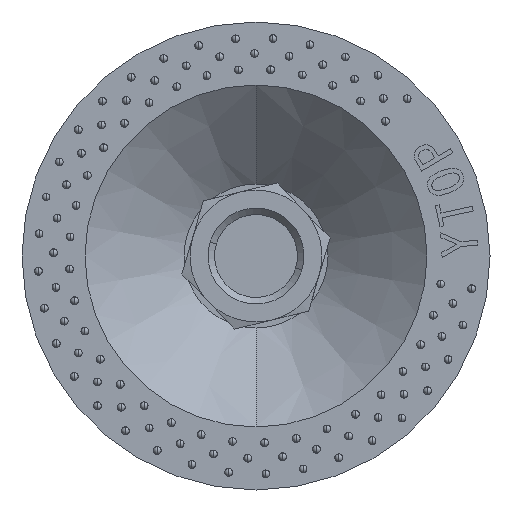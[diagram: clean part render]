
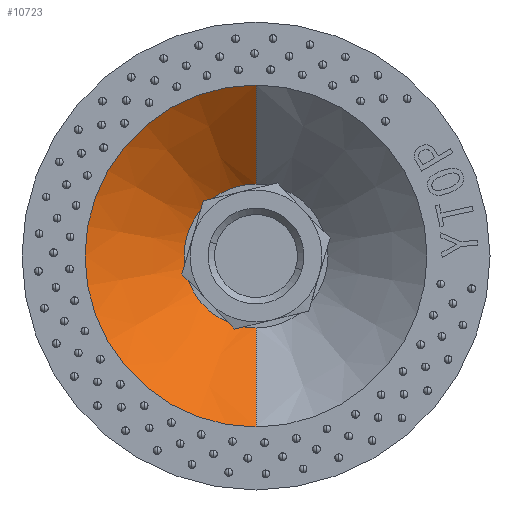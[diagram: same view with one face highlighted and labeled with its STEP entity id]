
A CAD part, front view. The second image highlights one B-rep face of the part: STEP entity #10723.
In plain terms, the highlighted conical face has half-angle 49.079 degrees and reference radius 28.5 mm.
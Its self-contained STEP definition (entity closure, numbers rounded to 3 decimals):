
#954 = LINE ( 'NONE', #8422, #12552 ) ;
#2592 = EDGE_CURVE ( 'NONE', #18894, #15374, #2679, .T. ) ;
#2679 = CIRCLE ( 'NONE', #16640, 12. ) ;
#2886 = CARTESIAN_POINT ( 'NONE',  ( 0., 19.9, 12. ) ) ;
#3132 = DIRECTION ( 'NONE',  ( 0., 1., 0. ) ) ;
#3493 = LINE ( 'NONE', #18735, #15808 ) ;
#5222 = CARTESIAN_POINT ( 'NONE',  ( 0., 19.9, 0. ) ) ;
#5647 = ORIENTED_EDGE ( 'NONE', *, *, #2592, .T. ) ;
#6484 = CARTESIAN_POINT ( 'NONE',  ( 0., 5.597, 0. ) ) ;
#6622 = DIRECTION ( 'NONE',  ( 0., 0., -1. ) ) ;
#7210 = AXIS2_PLACEMENT_3D ( 'NONE', #15845, #3132, #17535 ) ;
#7294 = ORIENTED_EDGE ( 'NONE', *, *, #8830, .F. ) ;
#8043 = CARTESIAN_POINT ( 'NONE',  ( 0., 5.597, -28.5 ) ) ;
#8422 = CARTESIAN_POINT ( 'NONE',  ( 0., 5.597, 28.5 ) ) ;
#8830 = EDGE_CURVE ( 'NONE', #18894, #19376, #3493, .T. ) ;
#10020 = DIRECTION ( 'NONE',  ( 0., -0.655, 0.756 ) ) ;
#10066 = CIRCLE ( 'NONE', #7210, 28.5 ) ;
#10723 = ADVANCED_FACE ( 'NONE', ( #16995 ), #20821, .F. ) ;
#12552 = VECTOR ( 'NONE', #10020, 1000. ) ;
#14357 = AXIS2_PLACEMENT_3D ( 'NONE', #6484, #20916, #6622 ) ;
#14363 = VERTEX_POINT ( 'NONE', #17299 ) ;
#15313 = EDGE_LOOP ( 'NONE', ( #5647, #20400, #16150, #7294 ) ) ;
#15374 = VERTEX_POINT ( 'NONE', #2886 ) ;
#15808 = VECTOR ( 'NONE', #20256, 1000. ) ;
#15845 = CARTESIAN_POINT ( 'NONE',  ( 0., 5.597, 0. ) ) ;
#16150 = ORIENTED_EDGE ( 'NONE', *, *, #16946, .F. ) ;
#16573 = DIRECTION ( 'NONE',  ( 0., 1., 0. ) ) ;
#16640 = AXIS2_PLACEMENT_3D ( 'NONE', #5222, #16573, #20904 ) ;
#16946 = EDGE_CURVE ( 'NONE', #19376, #14363, #10066, .T. ) ;
#16995 = FACE_OUTER_BOUND ( 'NONE', #15313, .T. ) ;
#17299 = CARTESIAN_POINT ( 'NONE',  ( 0., 5.597, 28.5 ) ) ;
#17535 = DIRECTION ( 'NONE',  ( 0., 0., 1. ) ) ;
#17969 = EDGE_CURVE ( 'NONE', #15374, #14363, #954, .T. ) ;
#18403 = CARTESIAN_POINT ( 'NONE',  ( 0., 19.9, -12. ) ) ;
#18735 = CARTESIAN_POINT ( 'NONE',  ( 0., 5.597, -28.5 ) ) ;
#18894 = VERTEX_POINT ( 'NONE', #18403 ) ;
#19376 = VERTEX_POINT ( 'NONE', #8043 ) ;
#20256 = DIRECTION ( 'NONE',  ( 0., -0.655, -0.756 ) ) ;
#20400 = ORIENTED_EDGE ( 'NONE', *, *, #17969, .T. ) ;
#20821 = CONICAL_SURFACE ( 'NONE', #14357, 28.5, 0.857 ) ;
#20904 = DIRECTION ( 'NONE',  ( 0., 0., 1. ) ) ;
#20916 = DIRECTION ( 'NONE',  ( 0., -1., 0. ) ) ;
